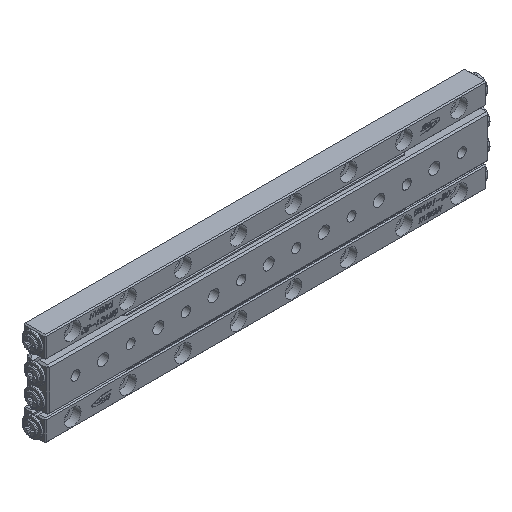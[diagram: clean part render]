
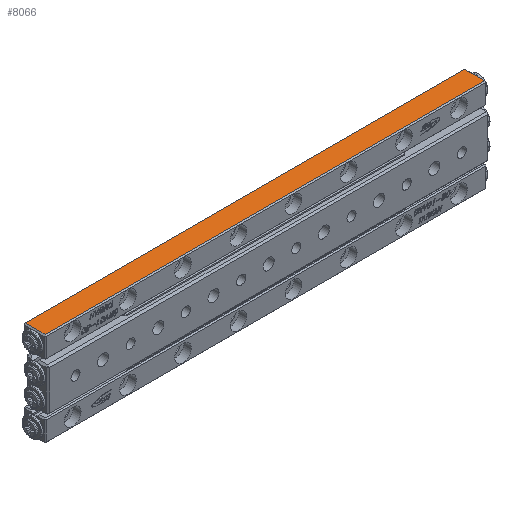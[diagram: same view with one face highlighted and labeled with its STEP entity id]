
A CAD part, isometric view. The second image highlights one B-rep face of the part: STEP entity #8066.
In plain terms, the highlighted planar face has unit normal (0, 0, 1) as drawn and (0, 0, -1) by its records, which use the part's own axes.
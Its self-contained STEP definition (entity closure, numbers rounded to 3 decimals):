
#756 = LINE ( 'NONE', #1258, #43875 ) ;
#1258 = CARTESIAN_POINT ( 'NONE',  ( 39.8, -2., 0. ) ) ;
#5233 = DIRECTION ( 'NONE',  ( -1., 0., 0. ) ) ;
#5721 = CARTESIAN_POINT ( 'NONE',  ( -40., -1.8, 0. ) ) ;
#6075 = ORIENTED_EDGE ( 'NONE', *, *, #9875, .T. ) ;
#8066 = ADVANCED_FACE ( 'NONE', ( #26568 ), #37182, .T. ) ;
#9875 = EDGE_CURVE ( 'NONE', #40366, #10532, #37768, .T. ) ;
#10508 = EDGE_CURVE ( 'NONE', #26763, #40366, #40683, .T. ) ;
#10532 = VERTEX_POINT ( 'NONE', #47956 ) ;
#11139 = EDGE_CURVE ( 'NONE', #23079, #26763, #756, .T. ) ;
#12424 = VECTOR ( 'NONE', #30434, 1000. ) ;
#14137 = VECTOR ( 'NONE', #5233, 1000. ) ;
#15170 = ORIENTED_EDGE ( 'NONE', *, *, #10508, .T. ) ;
#20626 = DIRECTION ( 'NONE',  ( 0., -1., 0. ) ) ;
#23079 = VERTEX_POINT ( 'NONE', #38923 ) ;
#26312 = LINE ( 'NONE', #45666, #47233 ) ;
#26417 = CARTESIAN_POINT ( 'NONE',  ( -39.8, 2., 0. ) ) ;
#26568 = FACE_OUTER_BOUND ( 'NONE', #46182, .T. ) ;
#26763 = VERTEX_POINT ( 'NONE', #48092 ) ;
#29622 = CARTESIAN_POINT ( 'NONE',  ( -40., -2., 0. ) ) ;
#30434 = DIRECTION ( 'NONE',  ( 0., 1., 0. ) ) ;
#31067 = DIRECTION ( 'NONE',  ( 1., 0., 0. ) ) ;
#32929 = EDGE_CURVE ( 'NONE', #10532, #23079, #26312, .T. ) ;
#33613 = CARTESIAN_POINT ( 'NONE',  ( -39.8, -1.8, 0. ) ) ;
#36635 = ORIENTED_EDGE ( 'NONE', *, *, #32929, .T. ) ;
#37182 = PLANE ( 'NONE',  #40426 ) ;
#37768 = LINE ( 'NONE', #26417, #12424 ) ;
#38923 = CARTESIAN_POINT ( 'NONE',  ( 39.8, 1.8, 0. ) ) ;
#40366 = VERTEX_POINT ( 'NONE', #33613 ) ;
#40426 = AXIS2_PLACEMENT_3D ( 'NONE', #29622, #45689, #49472 ) ;
#40683 = LINE ( 'NONE', #5721, #14137 ) ;
#43875 = VECTOR ( 'NONE', #20626, 1000. ) ;
#44535 = ORIENTED_EDGE ( 'NONE', *, *, #11139, .T. ) ;
#45666 = CARTESIAN_POINT ( 'NONE',  ( -40., 1.8, 0. ) ) ;
#45689 = DIRECTION ( 'NONE',  ( 0., 0., -1. ) ) ;
#46182 = EDGE_LOOP ( 'NONE', ( #36635, #44535, #15170, #6075 ) ) ;
#47233 = VECTOR ( 'NONE', #31067, 1000. ) ;
#47956 = CARTESIAN_POINT ( 'NONE',  ( -39.8, 1.8, 0. ) ) ;
#48092 = CARTESIAN_POINT ( 'NONE',  ( 39.8, -1.8, 0. ) ) ;
#49472 = DIRECTION ( 'NONE',  ( 0., 1., 0. ) ) ;
